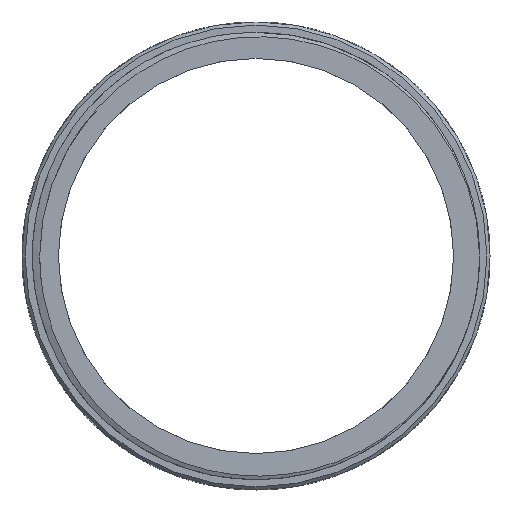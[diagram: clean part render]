
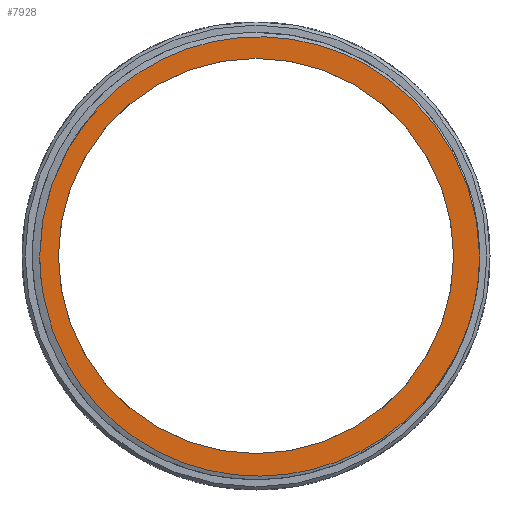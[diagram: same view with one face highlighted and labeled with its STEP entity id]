
A CAD part, front view. The second image highlights one B-rep face of the part: STEP entity #7928.
In plain terms, the highlighted planar face has unit normal (0, -1, 0).
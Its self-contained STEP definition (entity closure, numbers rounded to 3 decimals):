
#43=FACE_BOUND('',#1293,.T.);
#64=PLANE('',#9020);
#579=B_SPLINE_CURVE_WITH_KNOTS('',3,(#14790,#14791,#14792,#14793,#14794,
#14795,#14796,#14797,#14798,#14799,#14800,#14801,#14802,#14803,#14804,#14805,
#14806,#14807,#14808,#14809),.UNSPECIFIED.,.F.,.F.,(4,2,2,2,2,2,2,2,2,4),
(0.,0.754,1.591,2.,2.792,
3.203,4.02,4.409,5.008,5.585),
 .UNSPECIFIED.);
#580=B_SPLINE_CURVE_WITH_KNOTS('',3,(#14810,#14811,#14812,#14813,#14814,
#14815,#14816,#14817,#14818,#14819,#14820,#14821,#14822,#14823,#14824,#14825,
#14826,#14827,#14828,#14829,#14830,#14831),.UNSPECIFIED.,.F.,.F.,(4,2,2,
2,2,2,2,2,2,2,4),(0.,0.293,0.576,1.133,
1.974,2.808,3.649,4.449,4.735,
5.179,5.608),.UNSPECIFIED.);
#747=FACE_OUTER_BOUND('',#1292,.T.);
#1292=EDGE_LOOP('',(#6196,#6197,#6198,#6199,#6200));
#1293=EDGE_LOOP('',(#6201));
#1704=CIRCLE('',#8383,20.794);
#1718=CIRCLE('',#8413,19.);
#1841=CIRCLE('',#8540,21.5);
#2201=CIRCLE('',#9021,20.794);
#3323=VERTEX_POINT('',#12008);
#3325=VERTEX_POINT('',#12011);
#3367=VERTEX_POINT('',#12641);
#3490=VERTEX_POINT('',#12966);
#3491=VERTEX_POINT('',#12995);
#3854=VERTEX_POINT('',#14788);
#4030=EDGE_CURVE('',#3325,#3323,#1704,.T.);
#4085=EDGE_CURVE('',#3367,#3367,#1718,.T.);
#4213=EDGE_CURVE('',#3490,#3491,#1841,.T.);
#4815=EDGE_CURVE('',#3323,#3854,#2201,.T.);
#4816=EDGE_CURVE('',#3854,#3491,#579,.T.);
#4817=EDGE_CURVE('',#3490,#3325,#580,.T.);
#6196=ORIENTED_EDGE('',*,*,#4030,.T.);
#6197=ORIENTED_EDGE('',*,*,#4815,.T.);
#6198=ORIENTED_EDGE('',*,*,#4816,.T.);
#6199=ORIENTED_EDGE('',*,*,#4213,.F.);
#6200=ORIENTED_EDGE('',*,*,#4817,.T.);
#6201=ORIENTED_EDGE('',*,*,#4085,.F.);
#7928=ADVANCED_FACE('',(#747,#43),#64,.F.);
#8383=AXIS2_PLACEMENT_3D('',#12012,#9454,#9455);
#8413=AXIS2_PLACEMENT_3D('',#12643,#9530,#9531);
#8540=AXIS2_PLACEMENT_3D('',#12996,#9786,#9787);
#9020=AXIS2_PLACEMENT_3D('',#14787,#10749,#10750);
#9021=AXIS2_PLACEMENT_3D('',#14789,#10751,#10752);
#9454=DIRECTION('center_axis',(0.,-1.,0.));
#9455=DIRECTION('ref_axis',(1.,0.,0.));
#9530=DIRECTION('center_axis',(0.,-1.,0.));
#9531=DIRECTION('ref_axis',(0.,0.,-1.));
#9786=DIRECTION('center_axis',(0.,1.,0.));
#9787=DIRECTION('ref_axis',(0.,0.,1.));
#10749=DIRECTION('center_axis',(0.,1.,0.));
#10750=DIRECTION('ref_axis',(0.,0.,1.));
#10751=DIRECTION('center_axis',(0.,-1.,0.));
#10752=DIRECTION('ref_axis',(1.,0.,0.));
#12008=CARTESIAN_POINT('',(-20.794,0.,0.));
#12011=CARTESIAN_POINT('',(-18.182,0.,10.09));
#12012=CARTESIAN_POINT('Origin',(0.,0.,0.));
#12641=CARTESIAN_POINT('',(0.,0.,19.));
#12643=CARTESIAN_POINT('Origin',(0.,0.,0.));
#12966=CARTESIAN_POINT('',(21.5,0.,0.));
#12995=CARTESIAN_POINT('',(20.393,0.,-6.809));
#12996=CARTESIAN_POINT('Origin',(0.,0.,0.));
#14787=CARTESIAN_POINT('Origin',(0.,0.,0.));
#14788=CARTESIAN_POINT('',(-20.409,0.,-3.983));
#14789=CARTESIAN_POINT('Origin',(0.,0.,0.));
#14790=CARTESIAN_POINT('Ctrl Pts',(-20.409,0.,
-3.983));
#14791=CARTESIAN_POINT('Ctrl Pts',(-19.96,0.,
-6.456));
#14792=CARTESIAN_POINT('Ctrl Pts',(-19.067,0.,
-8.828));
#14793=CARTESIAN_POINT('Ctrl Pts',(-16.338,0.,
-13.374));
#14794=CARTESIAN_POINT('Ctrl Pts',(-14.438,0.,
-15.449));
#14795=CARTESIAN_POINT('Ctrl Pts',(-11.098,0.,
-17.898));
#14796=CARTESIAN_POINT('Ctrl Pts',(-9.924,0.,-18.594));
#14797=CARTESIAN_POINT('Ctrl Pts',(-6.311,0.,-20.289));
#14798=CARTESIAN_POINT('Ctrl Pts',(-3.742,0.,
-20.95));
#14799=CARTESIAN_POINT('Ctrl Pts',(0.246,0.,
-21.211));
#14800=CARTESIAN_POINT('Ctrl Pts',(1.618,0.,
-21.167));
#14801=CARTESIAN_POINT('Ctrl Pts',(5.663,0.,
-20.646));
#14802=CARTESIAN_POINT('Ctrl Pts',(8.262,0.,
-19.787));
#14803=CARTESIAN_POINT('Ctrl Pts',(11.756,0.,
-17.835));
#14804=CARTESIAN_POINT('Ctrl Pts',(12.822,0.,
-17.105));
#14805=CARTESIAN_POINT('Ctrl Pts',(15.348,0.,
-15.015));
#14806=CARTESIAN_POINT('Ctrl Pts',(16.696,0.,
-13.537));
#14807=CARTESIAN_POINT('Ctrl Pts',(18.9,0.,
-10.325));
#14808=CARTESIAN_POINT('Ctrl Pts',(19.765,0.,
-8.613));
#14809=CARTESIAN_POINT('Ctrl Pts',(20.393,0.,
-6.809));
#14810=CARTESIAN_POINT('Ctrl Pts',(21.5,0.,0.));
#14811=CARTESIAN_POINT('Ctrl Pts',(21.488,0.,
0.977));
#14812=CARTESIAN_POINT('Ctrl Pts',(21.411,0.,
1.941));
#14813=CARTESIAN_POINT('Ctrl Pts',(21.13,0.,
3.826));
#14814=CARTESIAN_POINT('Ctrl Pts',(20.931,0.,
4.743));
#14815=CARTESIAN_POINT('Ctrl Pts',(20.165,0.,
7.414));
#14816=CARTESIAN_POINT('Ctrl Pts',(19.431,0.,
9.112));
#14817=CARTESIAN_POINT('Ctrl Pts',(17.065,0.,
13.085));
#14818=CARTESIAN_POINT('Ctrl Pts',(15.183,0.,
15.183));
#14819=CARTESIAN_POINT('Ctrl Pts',(10.737,0.,
18.512));
#14820=CARTESIAN_POINT('Ctrl Pts',(8.219,0.,
19.721));
#14821=CARTESIAN_POINT('Ctrl Pts',(2.837,0.,
21.107));
#14822=CARTESIAN_POINT('Ctrl Pts',(0.013,0.,
21.265));
#14823=CARTESIAN_POINT('Ctrl Pts',(-5.384,0.,
20.483));
#14824=CARTESIAN_POINT('Ctrl Pts',(-7.917,0.,
19.605));
#14825=CARTESIAN_POINT('Ctrl Pts',(-11.043,0.,
17.804));
#14826=CARTESIAN_POINT('Ctrl Pts',(-11.834,0.,
17.274));
#14827=CARTESIAN_POINT('Ctrl Pts',(-13.752,0.,
15.788));
#14828=CARTESIAN_POINT('Ctrl Pts',(-14.825,0.,
14.761));
#14829=CARTESIAN_POINT('Ctrl Pts',(-16.699,0.,
12.536));
#14830=CARTESIAN_POINT('Ctrl Pts',(-17.505,0.,
11.35));
#14831=CARTESIAN_POINT('Ctrl Pts',(-18.182,0.,
10.09));
